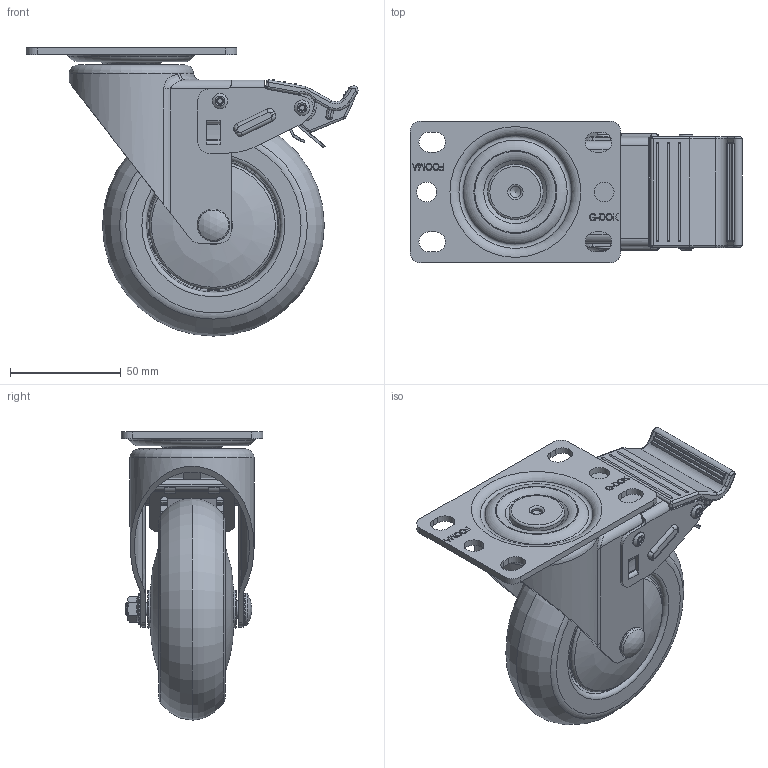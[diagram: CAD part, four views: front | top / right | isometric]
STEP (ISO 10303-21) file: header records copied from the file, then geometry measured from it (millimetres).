
FILE_DESCRIPTION(/* description */ (''),/* implementation_level */ '2;1');
FILE_NAME(/* name */ 'E:\홈피용도면\\X2\C2E0ADDCD648D398C774C9C0C6A9B3C4BA74\X0\\무소음캐스터\20160225-\X2\BB34C18CC74CCE90C2A4D130\X0\\GL-100-BSF.stp',/* time_stamp */ '2016-02-25T21:30:43+09:00',/* author */ ('장용하'),/* organization */ (''),/* preprocessor_version */ 'ST-DEVELOPER v15.6',/* originating_system */ 'Autodesk Inventor 2015',/* authorisation */ '');
FILE_SCHEMA (('AUTOMOTIVE_DESIGN { 1 0 10303 214 3 1 1 }'));
Length unit declared in the file: millimetre
Products named in the file (1): GL-100-BSF
Bounding box: 149.71 x 64 x 130 mm (x, y, z)
Volume: 251713.7 mm3; surface area: 101233.2 mm2
Topology: 3 solids, 4 shells, 1383 faces, 3773 edges, 2444 vertices
Faces by surface type: plane 880, cylinder 284, torus 102, bspline 48, cone 41, sphere 28
Full cylindrical faces by diameter (mm): 5 x3, 5.2 x5, 6 x2, 6.2 x1, 7 x5, 8 x1, 9 x2, 11 x1, 11.1 x1, 11.2 x1, 14 x1, 14.6 x1, 16 x1, 22 x2, 24.645 x1, 25 x1, 41 x1
Entity records: 45659 total; most frequent: CARTESIAN_POINT 10889, ORIENTED_EDGE 7224, DIRECTION 7048, EDGE_CURVE 3612, LINE 2622, VECTOR 2622, VERTEX_POINT 2426, AXIS2_PLACEMENT_3D 2213
